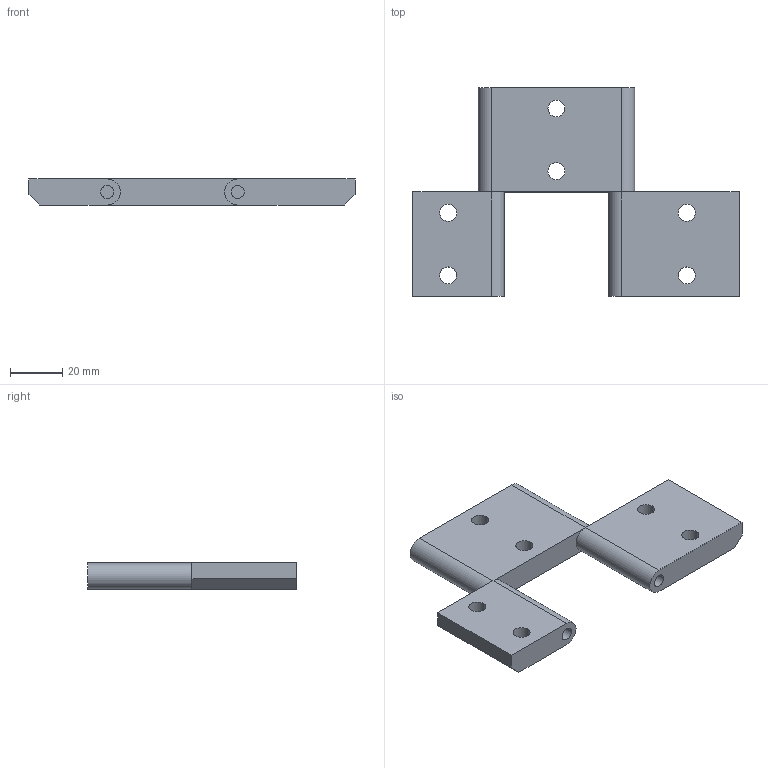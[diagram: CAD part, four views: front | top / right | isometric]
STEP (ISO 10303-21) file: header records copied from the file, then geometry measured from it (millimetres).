
FILE_DESCRIPTION((''),'2;1');
FILE_NAME('CEP3045D_ASM','2002-12-27T',('Lipro doo'),('Lipro d.o.o.'),'PRO/ENGINEER BY PARAMETRIC TECHNOLOGY CORPORATION, 2001150','PRO/ENGINEER BY PARAMETRIC TECHNOLOGY CORPORATION, 2001150','');
FILE_SCHEMA(('CONFIG_CONTROL_DESIGN'));
Length unit declared in the file: millimetre
Products named in the file (5): OS_FI5X60; CEP45_D; CEP45_1; CEP30_1; CEP3045D_ASM
Assembly tree (5 placements, depth 2):
  CEP3045D_ASM
    OS_FI5X60  x2
    CEP45_D
    CEP45_1
    CEP30_1
Bounding box: 125 x 80 x 10 mm (x, y, z)
Volume: 52145.8 mm3; surface area: 20909.7 mm2
Topology: 5 solids, 5 shells, 60 faces, 138 edges, 88 vertices
Faces by surface type: cylinder 28, plane 20, cone 12
Entity records: 1811 total; most frequent: DIRECTION 328, CARTESIAN_POINT 282, ORIENTED_EDGE 264, EDGE_CURVE 132, AXIS2_PLACEMENT_3D 130, VERTEX_POINT 84, EDGE_LOOP 76, VECTOR 68
